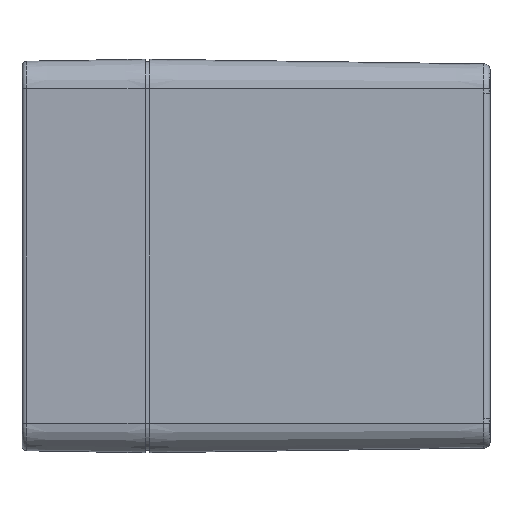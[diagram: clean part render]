
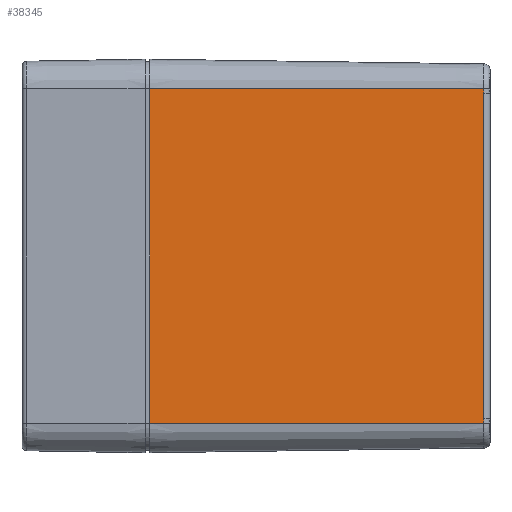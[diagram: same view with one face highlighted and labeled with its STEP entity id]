
A CAD part, left-side view. The second image highlights one B-rep face of the part: STEP entity #38345.
In plain terms, the highlighted planar face has unit normal (-1, -0.014, 0).
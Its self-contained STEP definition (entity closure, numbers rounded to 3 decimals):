
#74 = CARTESIAN_POINT ( 'NONE',  ( -59.038, -68.867, 33.11 ) ) ;
#1224 = EDGE_LOOP ( 'NONE', ( #36554, #21041, #48746, #18616, #16381, #19096 ) ) ;
#1947 = DIRECTION ( 'NONE',  ( -0.014, 1., 0. ) ) ;
#2114 = EDGE_CURVE ( 'NONE', #44247, #19193, #45048, .T. ) ;
#2387 = CARTESIAN_POINT ( 'NONE',  ( -59.038, -68.868, -33.183 ) ) ;
#2551 = VECTOR ( 'NONE', #44740, 1000. ) ;
#3957 = EDGE_CURVE ( 'NONE', #19193, #4457, #37231, .T. ) ;
#4335 = FACE_OUTER_BOUND ( 'NONE', #1224, .T. ) ;
#4457 = VERTEX_POINT ( 'NONE', #44835 ) ;
#6866 = CARTESIAN_POINT ( 'NONE',  ( -59.986, -1., 34. ) ) ;
#7994 = VERTEX_POINT ( 'NONE', #20422 ) ;
#8992 = VERTEX_POINT ( 'NONE', #44723 ) ;
#9904 = EDGE_CURVE ( 'NONE', #11736, #8992, #46472, .T. ) ;
#9951 = CARTESIAN_POINT ( 'NONE',  ( -59.038, -68.872, -34. ) ) ;
#10600 = DIRECTION ( 'NONE',  ( 0., 0., -1. ) ) ;
#10826 = AXIS2_PLACEMENT_3D ( 'NONE', #45820, #12000, #37441 ) ;
#11076 = LINE ( 'NONE', #25402, #35914 ) ;
#11736 = VERTEX_POINT ( 'NONE', #9951 ) ;
#11782 = VECTOR ( 'NONE', #1947, 1000. ) ;
#12000 = DIRECTION ( 'NONE',  ( -1., -0.014, 0. ) ) ;
#12448 = CARTESIAN_POINT ( 'NONE',  ( -59.038, -68.872, 34. ) ) ;
#12935 = VECTOR ( 'NONE', #10600, 1000. ) ;
#15144 = CARTESIAN_POINT ( 'NONE',  ( -59.038, -68.868, 33.147 ) ) ;
#16381 = ORIENTED_EDGE ( 'NONE', *, *, #17839, .T. ) ;
#17839 = EDGE_CURVE ( 'NONE', #8992, #7994, #11076, .T. ) ;
#18616 = ORIENTED_EDGE ( 'NONE', *, *, #9904, .T. ) ;
#19096 = ORIENTED_EDGE ( 'NONE', *, *, #21714, .T. ) ;
#19193 = VERTEX_POINT ( 'NONE', #44629 ) ;
#20422 = CARTESIAN_POINT ( 'NONE',  ( -59.038, -68.867, 33.074 ) ) ;
#21041 = ORIENTED_EDGE ( 'NONE', *, *, #3957, .T. ) ;
#21714 = EDGE_CURVE ( 'NONE', #7994, #44247, #27074, .T. ) ;
#22052 = EDGE_CURVE ( 'NONE', #11736, #4457, #44499, .T. ) ;
#22804 = CARTESIAN_POINT ( 'NONE',  ( -59.038, -68.869, 33.455 ) ) ;
#25402 = CARTESIAN_POINT ( 'NONE',  ( -59.038, -68.867, 34. ) ) ;
#27074 = B_SPLINE_CURVE_WITH_KNOTS ( 'NONE', 3,
 ( #33652, #74, #15144, #41566, #22804, #35366, #12448 ),
 .UNSPECIFIED., .F., .F.,
 ( 4, 3, 4 ),
 ( 0., 0., 0.001 ),
 .UNSPECIFIED. ) ;
#28092 = CARTESIAN_POINT ( 'NONE',  ( -59.038, -68.868, -33.147 ) ) ;
#33652 = CARTESIAN_POINT ( 'NONE',  ( -59.038, -68.867, 33.074 ) ) ;
#34191 = PLANE ( 'NONE',  #10826 ) ;
#35366 = CARTESIAN_POINT ( 'NONE',  ( -59.038, -68.872, 33.728 ) ) ;
#35762 = CARTESIAN_POINT ( 'NONE',  ( -60., 0., 34. ) ) ;
#35914 = VECTOR ( 'NONE', #37007, 1000. ) ;
#36554 = ORIENTED_EDGE ( 'NONE', *, *, #2114, .T. ) ;
#37007 = DIRECTION ( 'NONE',  ( 0., 0., 1. ) ) ;
#37231 = LINE ( 'NONE', #6866, #12935 ) ;
#37441 = DIRECTION ( 'NONE',  ( 0.014, -1., 0. ) ) ;
#38345 = ADVANCED_FACE ( 'NONE', ( #4335 ), #34191, .T. ) ;
#39696 = CARTESIAN_POINT ( 'NONE',  ( -59.038, -68.869, -33.455 ) ) ;
#40189 = CARTESIAN_POINT ( 'NONE',  ( -59.038, -68.867, -33.074 ) ) ;
#41566 = CARTESIAN_POINT ( 'NONE',  ( -59.038, -68.868, 33.183 ) ) ;
#43410 = CARTESIAN_POINT ( 'NONE',  ( -59.038, -68.872, -34. ) ) ;
#43660 = CARTESIAN_POINT ( 'NONE',  ( -59.038, -68.867, -33.11 ) ) ;
#44247 = VERTEX_POINT ( 'NONE', #47880 ) ;
#44499 = LINE ( 'NONE', #48696, #2551 ) ;
#44629 = CARTESIAN_POINT ( 'NONE',  ( -59.986, -1., 34. ) ) ;
#44723 = CARTESIAN_POINT ( 'NONE',  ( -59.038, -68.867, -33.074 ) ) ;
#44740 = DIRECTION ( 'NONE',  ( -0.014, 1., 0. ) ) ;
#44835 = CARTESIAN_POINT ( 'NONE',  ( -59.986, -1., -34. ) ) ;
#45048 = LINE ( 'NONE', #35762, #11782 ) ;
#45820 = CARTESIAN_POINT ( 'NONE',  ( -60., 0., 34. ) ) ;
#46472 = B_SPLINE_CURVE_WITH_KNOTS ( 'NONE', 3,
 ( #43410, #46871, #39696, #2387, #28092, #43660, #40189 ),
 .UNSPECIFIED., .F., .F.,
 ( 4, 3, 4 ),
 ( 0., 0.001, 0.001 ),
 .UNSPECIFIED. ) ;
#46871 = CARTESIAN_POINT ( 'NONE',  ( -59.038, -68.872, -33.728 ) ) ;
#47880 = CARTESIAN_POINT ( 'NONE',  ( -59.038, -68.872, 34. ) ) ;
#48696 = CARTESIAN_POINT ( 'NONE',  ( -60., 0., -34. ) ) ;
#48746 = ORIENTED_EDGE ( 'NONE', *, *, #22052, .F. ) ;
